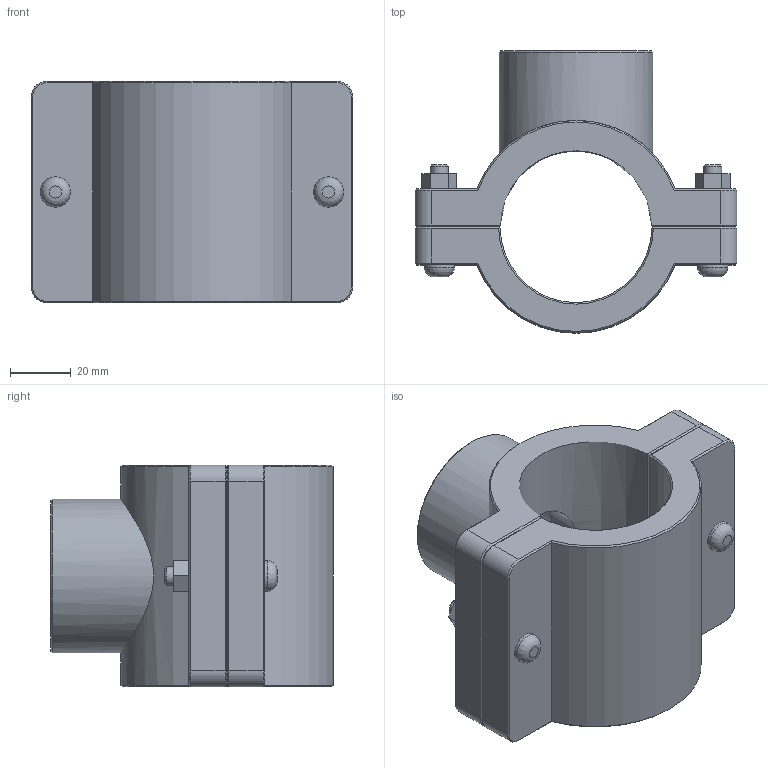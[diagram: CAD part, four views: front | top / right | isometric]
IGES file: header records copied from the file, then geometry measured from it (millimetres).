
Global section: file name: 160760050013_160860050013.ipt; native system: Autodesk Inventor 2015; preprocessor: unknown; author: KIM; date: 20170618.093458; units: millimetre
Bounding box: 106 x 93 x 73 mm (x, y, z)
Volume: 223550.2 mm3; surface area: 53683 mm2
Topology: 1 solids, 1 shells, 113 faces, 263 edges, 162 vertices
Faces by surface type: plane 64, cone 23, cylinder 17, revolution 9
Full cylindrical faces by diameter (mm): 6 x2, 10 x4, 50.638 x1
